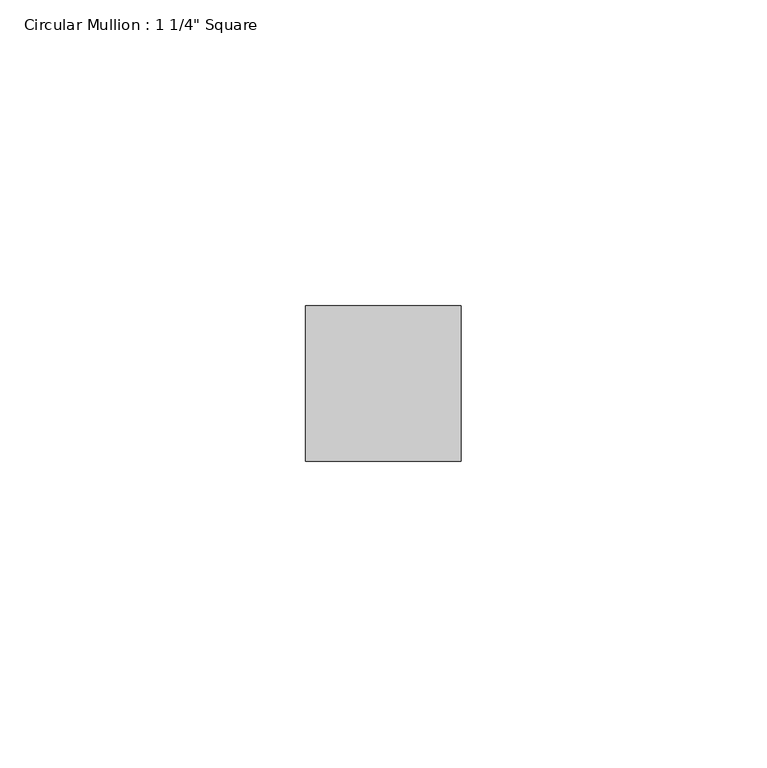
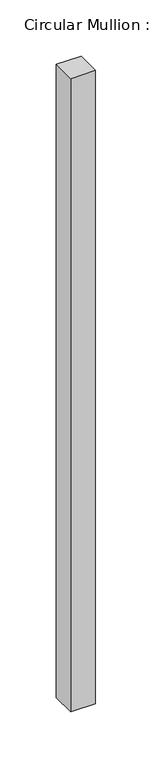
"""IFC4 building model written with IfcOpenShell, lengths in millimetres: member geometry."""

from ifc_helpers import new_model, si_unit, frame, origin, place, context, project, spatial, polyline, outline, extrude, source, transform, mapped, element, save


def member_92de3609(model_context):
    return source(origin(), model_context, "Body", "SweptSolid", [
        extrude(outline(polyline([(12.7, 12.7), (12.7, -12.7), (-12.7, -12.7), (-12.7, 12.7), (12.7, 12.7)])), frame((0.0, 0.0, -686.8292721), z_axis=(0.0, 0.0, 1.0), x_axis=(1.0, 0.0, 0.0)), (0.0, 0.0, 1.0), 686.8292721),
    ])


if __name__ == "__main__":
    model = new_model("IFC4")
    model_context = context("Model", 3, world=origin())
    ifc_project = project(units=[si_unit("LENGTHUNIT", "METRE", prefix="MILLI")], contexts=[model_context])
    site = spatial("IfcSite", under=ifc_project)
    building = spatial("IfcBuilding", under=site)
    placement = place(None, origin())
    member_shape = member_92de3609(model_context)
    element("IfcMember", 1, ObjectType="Circular Mullion : 1 1/4\" Square", at=placement, inside=building, context=model_context, shape_type="MappedRepresentation", body=[
        mapped(member_shape, transform((0.0, 0.0, 0.0), x_axis=(1.0, 0.0, 0.0), y_axis=(0.0, 1.0, 0.0), z_axis=(0.0, 0.0, 1.0))),
    ])
    save(model, "model.ifc")
